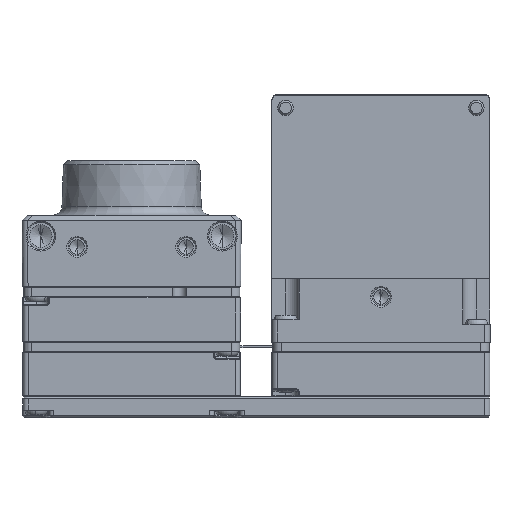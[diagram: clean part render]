
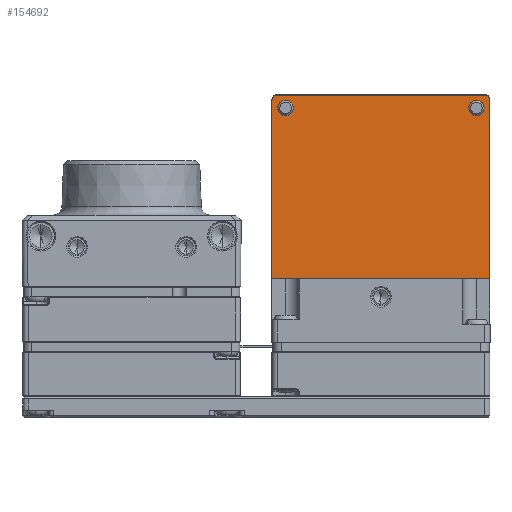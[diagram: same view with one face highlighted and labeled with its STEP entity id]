
A CAD part, front view. The second image highlights one B-rep face of the part: STEP entity #154692.
In plain terms, the highlighted planar face has unit normal (0, -1, 0).
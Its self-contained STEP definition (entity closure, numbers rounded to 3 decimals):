
#5046 = CARTESIAN_POINT ( 'NONE',  ( 37.95, 6.5, 19.8 ) ) ;
#7810 = ORIENTED_EDGE ( 'NONE', *, *, #19830, .F. ) ;
#9345 = AXIS2_PLACEMENT_3D ( 'NONE', #134104, #96343, #154562 ) ;
#9612 = EDGE_CURVE ( 'NONE', #88145, #69189, #80639, .T. ) ;
#10692 = CARTESIAN_POINT ( 'NONE',  ( 15.45, 6.5, 20.6 ) ) ;
#12548 = AXIS2_PLACEMENT_3D ( 'NONE', #80093, #45473, #141419 ) ;
#12817 = AXIS2_PLACEMENT_3D ( 'NONE', #146673, #74292, #112017 ) ;
#13280 = ORIENTED_EDGE ( 'NONE', *, *, #89288, .F. ) ;
#13851 = AXIS2_PLACEMENT_3D ( 'NONE', #102686, #114471, #19296 ) ;
#15449 = VERTEX_POINT ( 'NONE', #10692 ) ;
#18397 = DIRECTION ( 'NONE',  ( 0., -1., 0. ) ) ;
#19296 = DIRECTION ( 'NONE',  ( 0., 0., 1. ) ) ;
#19740 = CARTESIAN_POINT ( 'NONE',  ( 15.45, 6.5, -2.8 ) ) ;
#19830 = EDGE_CURVE ( 'NONE', #20654, #15449, #32324, .T. ) ;
#20551 = EDGE_CURVE ( 'NONE', #113992, #27165, #57371, .T. ) ;
#20654 = VERTEX_POINT ( 'NONE', #56098 ) ;
#20956 = ORIENTED_EDGE ( 'NONE', *, *, #9612, .F. ) ;
#22670 = ORIENTED_EDGE ( 'NONE', *, *, #53488, .F. ) ;
#22879 = AXIS2_PLACEMENT_3D ( 'NONE', #5046, #90767, #78181 ) ;
#27165 = VERTEX_POINT ( 'NONE', #154976 ) ;
#27304 = AXIS2_PLACEMENT_3D ( 'NONE', #126172, #18397, #39646 ) ;
#28082 = ORIENTED_EDGE ( 'NONE', *, *, #58571, .F. ) ;
#31287 = ORIENTED_EDGE ( 'NONE', *, *, #20551, .T. ) ;
#32324 = LINE ( 'NONE', #19740, #122618 ) ;
#34159 = CIRCLE ( 'NONE', #9345, 0.85 ) ;
#34580 = DIRECTION ( 'NONE',  ( 0., 0., -1. ) ) ;
#37793 = CIRCLE ( 'NONE', #113126, 0.6 ) ;
#39646 = DIRECTION ( 'NONE',  ( 0., 0., 1. ) ) ;
#42813 = EDGE_LOOP ( 'NONE', ( #20956, #134544 ) ) ;
#43212 = CARTESIAN_POINT ( 'NONE',  ( 37.95, 6.5, 20.65 ) ) ;
#45473 = DIRECTION ( 'NONE',  ( 0., -1., 0. ) ) ;
#46560 = DIRECTION ( 'NONE',  ( 0., -1., 0. ) ) ;
#47981 = EDGE_CURVE ( 'NONE', #20654, #96342, #129272, .T. ) ;
#53488 = EDGE_CURVE ( 'NONE', #113992, #96342, #81751, .T. ) ;
#54301 = DIRECTION ( 'NONE',  ( 0., 0., 1. ) ) ;
#54670 = FACE_BOUND ( 'NONE', #141488, .T. ) ;
#56098 = CARTESIAN_POINT ( 'NONE',  ( 15.45, 6.5, 1. ) ) ;
#57371 = CIRCLE ( 'NONE', #27304, 0.6 ) ;
#58571 = EDGE_CURVE ( 'NONE', #63693, #27165, #67308, .T. ) ;
#61183 = VECTOR ( 'NONE', #114369, 1000. ) ;
#63192 = EDGE_CURVE ( 'NONE', #69189, #88145, #34159, .T. ) ;
#63693 = VERTEX_POINT ( 'NONE', #118985 ) ;
#66456 = FACE_BOUND ( 'NONE', #42813, .T. ) ;
#66613 = CARTESIAN_POINT ( 'NONE',  ( 16.95, 6.5, 20.65 ) ) ;
#67308 = LINE ( 'NONE', #152268, #136973 ) ;
#69189 = VERTEX_POINT ( 'NONE', #66613 ) ;
#71709 = CARTESIAN_POINT ( 'NONE',  ( 39.45, 6.5, 1. ) ) ;
#74292 = DIRECTION ( 'NONE',  ( 0., -1., 0. ) ) ;
#77524 = FACE_OUTER_BOUND ( 'NONE', #139591, .T. ) ;
#78181 = DIRECTION ( 'NONE',  ( 0., 0., 1. ) ) ;
#80093 = CARTESIAN_POINT ( 'NONE',  ( 37.95, 6.5, 19.8 ) ) ;
#80380 = CIRCLE ( 'NONE', #12548, 0.85 ) ;
#80639 = CIRCLE ( 'NONE', #12817, 0.85 ) ;
#80661 = CARTESIAN_POINT ( 'NONE',  ( 16.95, 6.5, 18.95 ) ) ;
#81751 = LINE ( 'NONE', #154878, #144087 ) ;
#88145 = VERTEX_POINT ( 'NONE', #80661 ) ;
#89288 = EDGE_CURVE ( 'NONE', #102412, #113359, #80380, .T. ) ;
#89292 = ORIENTED_EDGE ( 'NONE', *, *, #101814, .F. ) ;
#90767 = DIRECTION ( 'NONE',  ( 0., -1., 0. ) ) ;
#92498 = DIRECTION ( 'NONE',  ( 1., 0., 0. ) ) ;
#96342 = VERTEX_POINT ( 'NONE', #71709 ) ;
#96343 = DIRECTION ( 'NONE',  ( 0., -1., 0. ) ) ;
#100418 = CIRCLE ( 'NONE', #22879, 0.85 ) ;
#101814 = EDGE_CURVE ( 'NONE', #113359, #102412, #100418, .T. ) ;
#102412 = VERTEX_POINT ( 'NONE', #125340 ) ;
#102565 = EDGE_CURVE ( 'NONE', #63693, #15449, #37793, .T. ) ;
#102686 = CARTESIAN_POINT ( 'NONE',  ( 27.45, 6.5, -2.5 ) ) ;
#103477 = PLANE ( 'NONE',  #13851 ) ;
#104115 = CARTESIAN_POINT ( 'NONE',  ( 27.45, 6.5, 1. ) ) ;
#108707 = CARTESIAN_POINT ( 'NONE',  ( 16.05, 6.5, 20.6 ) ) ;
#112017 = DIRECTION ( 'NONE',  ( 0., 0., 1. ) ) ;
#113126 = AXIS2_PLACEMENT_3D ( 'NONE', #108707, #46560, #133105 ) ;
#113359 = VERTEX_POINT ( 'NONE', #43212 ) ;
#113992 = VERTEX_POINT ( 'NONE', #144372 ) ;
#114369 = DIRECTION ( 'NONE',  ( 1., 0., 0. ) ) ;
#114471 = DIRECTION ( 'NONE',  ( 0., -1., 0. ) ) ;
#118985 = CARTESIAN_POINT ( 'NONE',  ( 16.05, 6.5, 21.2 ) ) ;
#121902 = ORIENTED_EDGE ( 'NONE', *, *, #47981, .T. ) ;
#122618 = VECTOR ( 'NONE', #54301, 1000. ) ;
#125340 = CARTESIAN_POINT ( 'NONE',  ( 37.95, 6.5, 18.95 ) ) ;
#126172 = CARTESIAN_POINT ( 'NONE',  ( 38.85, 6.5, 20.6 ) ) ;
#129272 = LINE ( 'NONE', #104115, #61183 ) ;
#133105 = DIRECTION ( 'NONE',  ( 0., 0., 1. ) ) ;
#134104 = CARTESIAN_POINT ( 'NONE',  ( 16.95, 6.5, 19.8 ) ) ;
#134544 = ORIENTED_EDGE ( 'NONE', *, *, #63192, .F. ) ;
#136973 = VECTOR ( 'NONE', #92498, 1000. ) ;
#137753 = ORIENTED_EDGE ( 'NONE', *, *, #102565, .T. ) ;
#139591 = EDGE_LOOP ( 'NONE', ( #28082, #137753, #7810, #121902, #22670, #31287 ) ) ;
#141419 = DIRECTION ( 'NONE',  ( 0., 0., 1. ) ) ;
#141488 = EDGE_LOOP ( 'NONE', ( #13280, #89292 ) ) ;
#144087 = VECTOR ( 'NONE', #34580, 1000. ) ;
#144372 = CARTESIAN_POINT ( 'NONE',  ( 39.45, 6.5, 20.6 ) ) ;
#146673 = CARTESIAN_POINT ( 'NONE',  ( 16.95, 6.5, 19.8 ) ) ;
#152268 = CARTESIAN_POINT ( 'NONE',  ( 39.45, 6.5, 21.2 ) ) ;
#154562 = DIRECTION ( 'NONE',  ( 0., 0., 1. ) ) ;
#154692 = ADVANCED_FACE ( 'NONE', ( #54670, #66456, #77524 ), #103477, .T. ) ;
#154878 = CARTESIAN_POINT ( 'NONE',  ( 39.45, 6.5, -2.8 ) ) ;
#154976 = CARTESIAN_POINT ( 'NONE',  ( 38.85, 6.5, 21.2 ) ) ;
